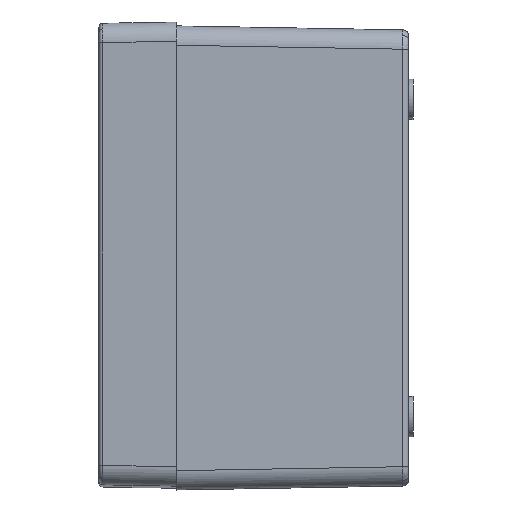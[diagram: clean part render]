
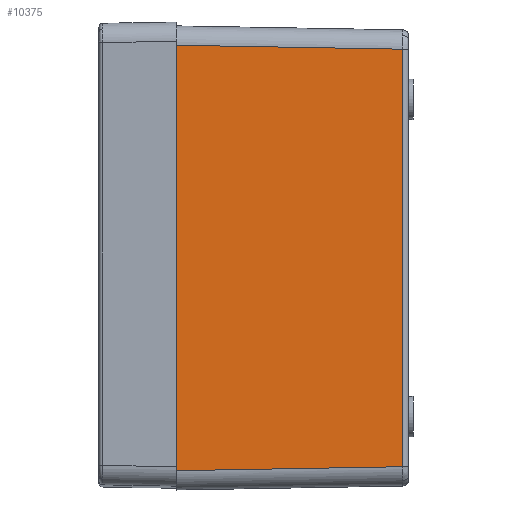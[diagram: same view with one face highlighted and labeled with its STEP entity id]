
A CAD part, left-side view. The second image highlights one B-rep face of the part: STEP entity #10375.
In plain terms, the highlighted planar face has unit normal (-1, -0.018, 0).
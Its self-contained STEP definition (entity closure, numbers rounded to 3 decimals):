
#254 = DIRECTION ( 'NONE',  ( 0.017, -1., 0.017 ) ) ;
#467 = VERTEX_POINT ( 'NONE', #4067 ) ;
#643 = VERTEX_POINT ( 'NONE', #16062 ) ;
#2158 = EDGE_CURVE ( 'NONE', #16041, #467, #16745, .T. ) ;
#2536 = CARTESIAN_POINT ( 'NONE',  ( -110., 0., 60. ) ) ;
#3749 = CARTESIAN_POINT ( 'NONE',  ( -110., 0., 60. ) ) ;
#3750 = ORIENTED_EDGE ( 'NONE', *, *, #12313, .T. ) ;
#4067 = CARTESIAN_POINT ( 'NONE',  ( -110., 0., 55.001 ) ) ;
#5037 = FACE_OUTER_BOUND ( 'NONE', #7779, .T. ) ;
#5095 = ORIENTED_EDGE ( 'NONE', *, *, #15866, .T. ) ;
#5409 = DIRECTION ( 'NONE',  ( 0., 0., 1. ) ) ;
#5666 = ORIENTED_EDGE ( 'NONE', *, *, #2158, .F. ) ;
#6462 = DIRECTION ( 'NONE',  ( -1., -0.017, 0. ) ) ;
#7779 = EDGE_LOOP ( 'NONE', ( #5095, #3750, #12760, #5666 ) ) ;
#8791 = LINE ( 'NONE', #11053, #13867 ) ;
#9481 = EDGE_CURVE ( 'NONE', #643, #467, #17124, .T. ) ;
#9812 = CARTESIAN_POINT ( 'NONE',  ( -108.978, -58.526, 60. ) ) ;
#9865 = DIRECTION ( 'NONE',  ( 0., 0., 1. ) ) ;
#10375 = ADVANCED_FACE ( 'NONE', ( #5037 ), #14593, .T. ) ;
#10843 = AXIS2_PLACEMENT_3D ( 'NONE', #3749, #6462, #15952 ) ;
#11053 = CARTESIAN_POINT ( 'NONE',  ( -109.965, -2.006, -54.966 ) ) ;
#11483 = DIRECTION ( 'NONE',  ( -0.017, 1., 0.017 ) ) ;
#11517 = CARTESIAN_POINT ( 'NONE',  ( -110., 0., -55.001 ) ) ;
#11868 = CARTESIAN_POINT ( 'NONE',  ( -108.978, -58.526, -53.979 ) ) ;
#12313 = EDGE_CURVE ( 'NONE', #15695, #643, #14341, .T. ) ;
#12760 = ORIENTED_EDGE ( 'NONE', *, *, #9481, .T. ) ;
#12888 = CARTESIAN_POINT ( 'NONE',  ( -110.002, 0.087, 55.002 ) ) ;
#13123 = VECTOR ( 'NONE', #5409, 1000. ) ;
#13517 = VECTOR ( 'NONE', #11483, 1000. ) ;
#13867 = VECTOR ( 'NONE', #254, 1000. ) ;
#14341 = LINE ( 'NONE', #9812, #17517 ) ;
#14593 = PLANE ( 'NONE',  #10843 ) ;
#15695 = VERTEX_POINT ( 'NONE', #11868 ) ;
#15866 = EDGE_CURVE ( 'NONE', #16041, #15695, #8791, .T. ) ;
#15952 = DIRECTION ( 'NONE',  ( 0.017, -1., 0. ) ) ;
#16041 = VERTEX_POINT ( 'NONE', #11517 ) ;
#16062 = CARTESIAN_POINT ( 'NONE',  ( -108.978, -58.526, 53.979 ) ) ;
#16745 = LINE ( 'NONE', #2536, #13123 ) ;
#17124 = LINE ( 'NONE', #12888, #13517 ) ;
#17517 = VECTOR ( 'NONE', #9865, 1000. ) ;
